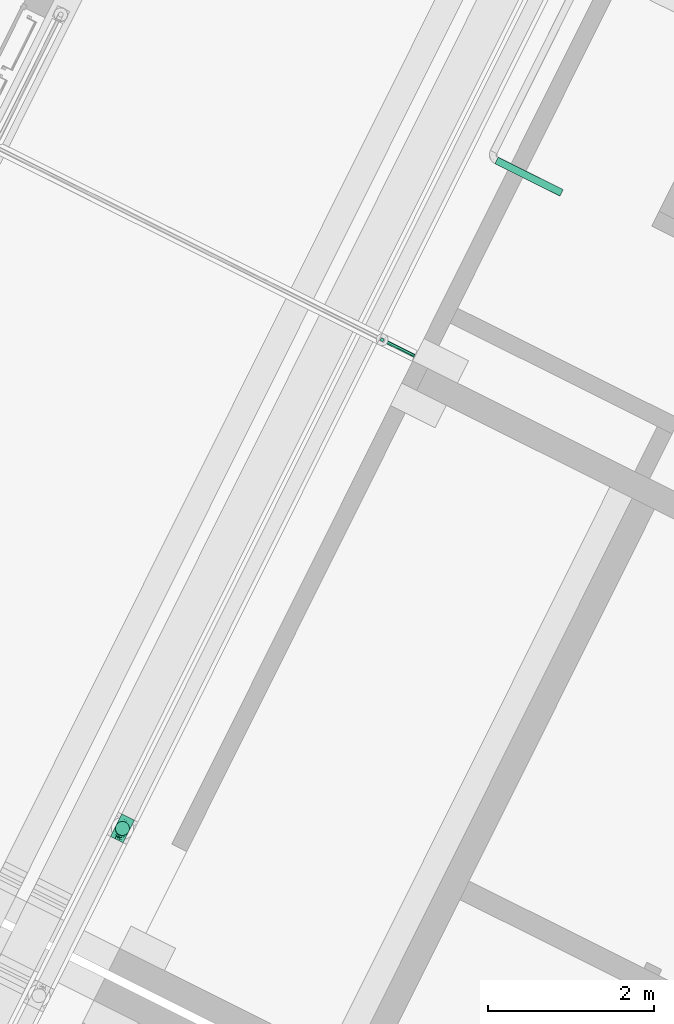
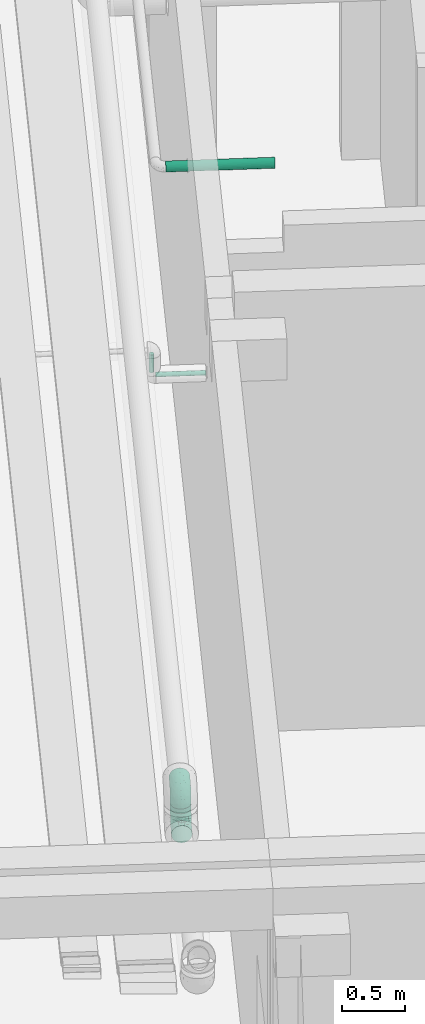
# One storey, part 77 of 91: 4 flow segments, 2 flow fittings.
"""IFC2X3 building model written with IfcOpenShell, lengths in metres."""

from ifc_helpers import new_model, entity, si_unit, converted_unit, derived_unit, direction, frame, frame_2d, origin, place, context, subcontext, project, spatial, circle, extrude, faceted_brep, source, transform, mapped, type_object, type_shapes, element, save


model = new_model("IFC2X3")

# Units and contexts
model_context = context("Model", 3, precision=1e-05, world=origin(), true_north=direction((0.894925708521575, 0.446215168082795)))
context_of_model = context(None, 3, precision=1e-05, world=origin(), true_north=direction((0.894925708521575, 0.446215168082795)))
body_context = subcontext(model_context, "Body", "Model", "MODEL_VIEW")
ifc_project = project(units=[si_unit("LENGTHUNIT", "METRE"), si_unit("AREAUNIT", "SQUARE_METRE"), si_unit("VOLUMEUNIT", "CUBIC_METRE"), converted_unit("PLANEANGLEUNIT", "DEGREE", entity("IfcRatioMeasure", 0.0174532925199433), si_unit("PLANEANGLEUNIT", "RADIAN"), dimensions=[0, 0, 0, 0, 0, 0, 0]), si_unit("MASSUNIT", "GRAM", prefix="KILO"), si_unit("TIMEUNIT", "SECOND"), si_unit("FREQUENCYUNIT", "HERTZ"), si_unit("THERMODYNAMICTEMPERATUREUNIT", "DEGREE_CELSIUS"), derived_unit("THERMALTRANSMITTANCEUNIT", [(si_unit("MASSUNIT", "GRAM", prefix="KILO"), 1), (si_unit("THERMODYNAMICTEMPERATUREUNIT", "KELVIN"), -1), (si_unit("TIMEUNIT", "SECOND"), -3)]), derived_unit("VOLUMETRICFLOWRATEUNIT", [(si_unit("LENGTHUNIT", "METRE"), 3), (si_unit("TIMEUNIT", "SECOND"), -1)]), si_unit("ELECTRICCURRENTUNIT", "AMPERE"), si_unit("ELECTRICVOLTAGEUNIT", "VOLT"), si_unit("POWERUNIT", "WATT"), si_unit("FORCEUNIT", "NEWTON", prefix="KILO"), si_unit("ILLUMINANCEUNIT", "LUX"), si_unit("LUMINOUSFLUXUNIT", "LUMEN"), si_unit("LUMINOUSINTENSITYUNIT", "CANDELA"), si_unit("PRESSUREUNIT", "PASCAL")], contexts=[model_context, context_of_model])

# Site, building, storey
site_placement = place(None, frame((218.228324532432, 584.720189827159, 0.0), z_axis=(0.0, 0.0, 1.0), x_axis=(0.446215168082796, 0.894925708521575, 0.0)))
site = spatial("IfcSite", under=ifc_project, at=site_placement, Name="Default", CompositionType="ELEMENT")
building_placement = place(site_placement, origin())
building = spatial("IfcBuilding", under=site, at=building_placement, CompositionType="ELEMENT")
storey_placement = place(building_placement, origin())
storey = spatial("IfcBuildingStorey", under=building, at=storey_placement, Name="0 - Piano Terra", CompositionType="ELEMENT", Elevation=0.0)

# Flow segment
pipe_segment_type_1 = type_object("IfcPipeSegmentType", Name="Tubazione:Riscaldamento-Tubazione", PredefinedType="NOTDEFINED")
flow_segment_1_placement = place(storey_placement, frame((-11.2648067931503, -4.47094926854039, 3.70199999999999)))
element("IfcFlowSegment", 1, at=flow_segment_1_placement, inside=storey, type_object=pipe_segment_type_1, Name="Tubazione:Riscaldamento-Tubazione", ObjectType="Tubazione:Riscaldamento-Tubazione", context=body_context, shape_type="SweptSolid", body=[
    extrude(circle(Radius=0.0841375, at=frame_2d((0.0, -5.41433564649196e-16), x_axis=(1.0, 0.0))), frame((0.0857327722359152, 0.0857327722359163, 0.0)), (0.0, 0.0, 1.0), 0.0459999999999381),
])

# Flow fittings
pipe_fitting_type = type_object("IfcPipeFittingType", Name="Standard", PredefinedType="NOTDEFINED")
shared_shape = source(origin(), body_context, "Body", "Brep", [
    faceted_brep([(-0.151999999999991, 0.0, -0.0841500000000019), (-0.151999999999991, -0.0217796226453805, -0.081282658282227), (-0.151999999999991, -0.0420750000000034, -0.0728760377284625), (-0.151999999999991, -0.0595030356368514, -0.05950303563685), (-0.151999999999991, -0.0728760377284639, -0.0420750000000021), (-0.151999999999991, -0.0812826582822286, -0.0217796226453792), (-0.151999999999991, -0.0841500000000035, 0.0), (-0.151999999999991, -0.0812826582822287, 0.021779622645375), (-0.151999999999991, -0.0728760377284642, 0.0420749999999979), (-0.151999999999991, -0.0595030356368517, 0.0595030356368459), (-0.151999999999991, -0.0420750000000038, 0.0728760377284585), (-0.151999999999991, -0.021779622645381, 0.0812826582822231), (-0.151999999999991, 0.0, 0.0841499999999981), (-0.151999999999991, 0.0217796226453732, 0.0812826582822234), (-0.151999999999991, 0.0420749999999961, 0.0728760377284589), (-0.151999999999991, 0.0595030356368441, 0.0595030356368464), (-0.151999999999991, 0.0728760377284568, 0.0420749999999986), (-0.151999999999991, 0.0812826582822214, 0.0217796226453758), (-0.151999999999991, 0.0841499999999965, 0.0), (-0.151999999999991, 0.0812826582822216, -0.021779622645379), (-0.151999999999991, 0.072876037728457, -0.0420750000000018), (-0.151999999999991, 0.0595030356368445, -0.0595030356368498), (-0.151999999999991, 0.0420749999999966, -0.0728760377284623), (-0.151999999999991, 0.0217796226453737, -0.0812826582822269), (-0.0217796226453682, 0.151999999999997, -0.0812826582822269), (-0.0420749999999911, 0.151999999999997, -0.0728760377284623), (-0.059503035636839, 0.151999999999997, -0.0595030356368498), (-0.0728760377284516, 0.151999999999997, -0.0420750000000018), (-0.0812826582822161, 0.151999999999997, -0.021779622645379), (-0.084149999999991, 0.151999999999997, 0.0), (-0.081282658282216, 0.151999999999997, 0.0217796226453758), (-0.0728760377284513, 0.151999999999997, 0.0420749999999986), (-0.0595030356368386, 0.151999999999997, 0.0595030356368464), (-0.0420749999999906, 0.151999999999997, 0.0728760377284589), (-0.0217796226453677, 0.151999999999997, 0.0812826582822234), (0.0, 0.151999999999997, 0.0841499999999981), (0.0217796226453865, 0.151999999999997, 0.0812826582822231), (0.0420750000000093, 0.151999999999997, 0.0728760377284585), (0.0595030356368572, 0.151999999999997, 0.0595030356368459), (0.0728760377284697, 0.151999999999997, 0.0420749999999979), (0.0812826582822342, 0.151999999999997, 0.021779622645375), (0.084150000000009, 0.151999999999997, 0.0), (0.081282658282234, 0.151999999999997, -0.0217796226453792), (0.0728760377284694, 0.151999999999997, -0.0420750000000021), (0.0595030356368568, 0.151999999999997, -0.05950303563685), (0.0420750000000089, 0.151999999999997, -0.0728760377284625), (0.021779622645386, 0.151999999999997, -0.081282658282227), (0.0, 0.151999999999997, -0.0841500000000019), (-0.112295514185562, -0.0662348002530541, 0.0469763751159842), (-0.0998944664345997, -0.0498948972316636, 0.0623523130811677), (-0.0994516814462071, -0.078229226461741, 0.0), (0.0326295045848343, 0.00476288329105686, 0.0), (0.0139051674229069, -0.0139051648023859, 0.0159460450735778), (-0.00476288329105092, -0.0326295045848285, 0.0), (-0.104326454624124, -0.0750333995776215, 0.0261468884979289), (-0.113416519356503, 0.0105478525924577, 0.0839778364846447), (-0.10345101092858, 0.0347244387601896, 0.080327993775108), (-0.131471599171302, 0.0309707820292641, 0.0789057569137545), (-0.0309203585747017, -0.0471487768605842, 0.0225668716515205), (-0.0495383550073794, -0.0607637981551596, 0.0), (-0.0683222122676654, -0.0568785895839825, 0.0418314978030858), (-0.0660333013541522, -0.0644471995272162, 0.0231811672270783), (-0.0835793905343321, 0.116982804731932, 0.0378856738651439), (-0.026569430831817, 0.0183089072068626, 0.0781043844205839), (-0.0165432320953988, 0.0456685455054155, 0.0816880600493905), (-0.0428661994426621, 0.0321386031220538, 0.0835414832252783), (0.0470025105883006, 0.0693062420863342, 0.055217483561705), (0.056878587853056, 0.0683222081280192, 0.0418314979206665), (0.0662347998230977, 0.112295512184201, 0.0469763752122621), (-0.0880808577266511, 0.123149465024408, 0.0194495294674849), (-0.115041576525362, -0.0119238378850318, 0.0826074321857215), (0.049894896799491, 0.0998944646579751, 0.062352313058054), (-0.111156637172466, -0.0327211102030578, 0.0754895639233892), (-0.0752436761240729, -0.0325343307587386, 0.0692137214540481), (-0.00888418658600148, -0.0109985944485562, 0.053550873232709), (-0.00897555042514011, 0.00897554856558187, 0.0674865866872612), (-0.0444608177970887, -0.0301022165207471, 0.0595210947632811), (-0.109349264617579, 0.0934713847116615, 0.0273546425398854), (-0.128739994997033, 0.0797549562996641, 0.0359106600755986), (-0.12603492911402, 0.0893147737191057, 0.0), (0.0471487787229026, 0.0309203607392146, 0.022566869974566), (0.0371028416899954, 0.0305253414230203, 0.0422794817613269), (-0.0347244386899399, 0.103451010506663, 0.080327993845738), (-0.0262367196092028, 0.07490520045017, 0.0840302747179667), (-0.0105478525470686, 0.113416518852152, 0.0839778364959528), (-0.119941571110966, 0.0519254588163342, 0.0698578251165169), (-0.0833454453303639, 0.0610025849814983, 0.0750769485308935), (-0.0993800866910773, 0.0670387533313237, 0.0661104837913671), (-0.0522736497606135, 0.118034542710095, 0.0700368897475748), (-0.118528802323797, 0.069574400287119, 0.055744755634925), (0.0607637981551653, 0.0495383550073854, 0.0), (0.0327211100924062, 0.111156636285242, 0.075489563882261), (-0.0767637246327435, 0.0258413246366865, 0.0839946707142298), (0.0119238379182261, 0.115041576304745, 0.0826074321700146), (-0.102216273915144, 0.0876981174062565, 0.0456699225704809), (0.0782292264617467, 0.0994516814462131, 0.0), (0.0750333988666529, 0.104326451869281, 0.0261468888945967), (0.0651289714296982, 0.0654047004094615, 0.0199129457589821), (-0.0566549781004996, 0.0566549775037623, 0.0823814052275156), (-0.0309707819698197, 0.13147159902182, 0.0789057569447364), (-0.0673555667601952, 0.101601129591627, 0.0649639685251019), (-0.0687747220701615, 0.121637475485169, 0.0553217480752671), (-0.0893147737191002, 0.126034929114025, 0.0), (-0.104022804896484, 0.104022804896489, 0.0), (-0.0580913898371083, 0.0854184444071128, 0.0756364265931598), (0.00431503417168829, 0.0425180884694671, 0.0746493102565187), (0.00308445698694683, 0.0734448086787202, 0.0812650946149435), (-0.0693062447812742, -0.0470025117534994, 0.0552174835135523), (-0.085628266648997, 0.086263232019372, 0.0604079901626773), (-0.0414671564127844, 0.0784252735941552, 0.0819258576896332), (-0.0734448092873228, -0.00308445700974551, 0.0812650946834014), (-0.0305253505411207, -0.037102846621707, 0.0422794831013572), (-0.0426179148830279, -0.0109766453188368, 0.0715577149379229), (0.0222104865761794, 0.075179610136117, 0.0748796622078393), (0.0365396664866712, 0.0751083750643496, 0.0664604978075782), (0.0166895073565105, 0.014403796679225, 0.0525934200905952), (-0.0796442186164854, 0.0464469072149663, 0.0806466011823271), (0.00908607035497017, -0.00908606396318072, 0.036524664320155), (0.0301022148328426, 0.0444608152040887, 0.0595210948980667), (-0.119427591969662, 0.0520158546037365, -0.0699061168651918), (-0.110232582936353, 0.0332348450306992, -0.0799986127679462), (0.067303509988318, 0.127444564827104, -0.0486323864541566), (-0.119776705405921, 0.00991992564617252, -0.0839129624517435), (-0.109349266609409, 0.0934713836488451, -0.0273546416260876), (-0.118520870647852, 0.080425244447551, -0.0418904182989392), (-0.0824889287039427, 0.0176322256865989, -0.0841469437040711), (-0.042237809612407, 0.0404874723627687, -0.0840312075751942), (-0.0715643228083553, 0.0462238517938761, -0.0819502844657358), (-0.0269520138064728, -0.034464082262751, -0.0426985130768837), (-0.0323682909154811, -0.0463076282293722, -0.0273014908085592), (-0.0576003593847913, -0.052357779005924, -0.0416714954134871), (-0.00991992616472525, 0.119776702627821, -0.083912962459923), (-0.0332348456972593, 0.110232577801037, -0.0799986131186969), (-0.0929808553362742, 0.0517253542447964, -0.0762272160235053), (0.00399581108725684, 0.0640144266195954, -0.079667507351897), (0.00840813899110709, 0.0328778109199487, -0.0692544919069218), (-0.0236511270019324, 0.0236511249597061, -0.0788049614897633), (0.0635649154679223, 0.0943451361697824, -0.0449449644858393), (0.0647121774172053, 0.0698052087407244, -0.0267768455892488), (0.0523577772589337, 0.0576003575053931, -0.0416714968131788), (-0.132110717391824, 0.0669080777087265, -0.0539090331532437), (-0.110166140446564, -0.0759227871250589, -0.0269132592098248), (-0.127444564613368, -0.067303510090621, -0.0486323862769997), (-0.0698052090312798, -0.0647121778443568, -0.0267768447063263), (0.00867466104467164, -0.00867466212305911, -0.037708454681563), (0.0160110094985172, 0.0156079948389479, -0.0541609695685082), (0.0347671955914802, 0.027256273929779, -0.0425577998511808), (-0.109085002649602, -0.0511074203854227, -0.0631726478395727), (0.0138015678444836, -0.0138015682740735, -0.0166872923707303), (-0.0734094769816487, 0.10741660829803, -0.0572817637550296), (-0.0938460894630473, 0.0941329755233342, -0.0467626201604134), (-0.0824977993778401, 0.119740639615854, -0.0374121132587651), (0.0203075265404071, 0.0628849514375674, -0.0729261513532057), (-0.127855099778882, -0.0335932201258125, -0.0764538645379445), (-0.111254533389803, -0.0115586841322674, -0.0825049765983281), (-0.054595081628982, -0.037464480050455, -0.0579290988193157), (-0.0943451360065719, -0.0635649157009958, -0.0449449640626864), (0.0463076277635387, 0.0323682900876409, -0.0273014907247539), (-0.0879480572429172, 0.123581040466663, -0.0192162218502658), (-0.0520158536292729, 0.119427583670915, -0.0699061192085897), (-0.0668704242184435, 0.132433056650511, -0.053865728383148), (0.0759227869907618, 0.11016614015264, -0.0269132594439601), (-0.094035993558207, 0.0671599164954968, -0.0682327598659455), (-0.0852711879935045, 0.0856897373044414, -0.0610386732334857), (-0.0723785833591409, 0.0723785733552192, -0.0743572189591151), (0.0511074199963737, 0.109085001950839, -0.0631726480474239), (0.0335932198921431, 0.127855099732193, -0.0764538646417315), (0.0115586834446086, 0.111254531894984, -0.0825049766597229), (0.0304569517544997, 0.0950501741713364, -0.0744944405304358), (-0.0587965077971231, -0.0231830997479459, -0.0701791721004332), (-0.0640144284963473, -0.0039958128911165, -0.0796675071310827), (-0.0253392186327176, -0.00591217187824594, -0.0673625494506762), (-0.0950501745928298, -0.0304569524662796, -0.0744944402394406), (0.0374644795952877, 0.0545950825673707, -0.0579290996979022), (-0.0176322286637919, 0.082488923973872, -0.0841469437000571), (-0.0469951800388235, 0.0749575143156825, -0.081286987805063), (-0.0651507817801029, 0.0957840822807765, -0.0687360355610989), (-0.0548517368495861, 0.0878796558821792, -0.0762491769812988), (-0.0117403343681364, -0.0138595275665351, -0.0531816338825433), (-0.106904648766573, 0.0736247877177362, -0.0573538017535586)], [[[0, 1, 2, 3, 4, 5, 6, 7, 8, 9, 10, 11, 12, 13, 14, 15, 16, 17, 18, 19, 20, 21, 22, 23]], [[24, 25, 26, 27, 28, 29, 30, 31, 32, 33, 34, 35, 36, 37, 38, 39, 40, 41, 42, 43, 44, 45, 46, 47]], [[9, 48, 49]], [[7, 6, 50]], [[51, 52, 53]], [[54, 8, 7]], [[50, 54, 7]], [[55, 56, 57]], [[8, 48, 9]], [[58, 59, 53]], [[60, 54, 61]], [[58, 60, 61]], [[9, 49, 10]], [[62, 31, 30]], [[63, 64, 65]], [[66, 67, 68]], [[30, 69, 62]], [[11, 70, 12]], [[71, 38, 37]], [[14, 13, 57]], [[10, 49, 72]], [[49, 73, 72]], [[74, 75, 76]], [[77, 17, 78]], [[17, 79, 18]], [[79, 17, 77]], [[80, 67, 81]], [[82, 83, 84]], [[85, 86, 87]], [[33, 32, 88]], [[85, 89, 15]], [[80, 51, 90]], [[71, 37, 91]], [[56, 55, 92]], [[93, 36, 35]], [[78, 94, 77]], [[95, 40, 96]], [[95, 96, 97]], [[83, 98, 65]], [[35, 34, 84]], [[34, 99, 84]], [[96, 40, 39]], [[71, 66, 68]], [[39, 38, 68]], [[94, 62, 77]], [[67, 80, 97]], [[100, 88, 101]], [[40, 95, 41]], [[15, 14, 85]], [[68, 96, 39]], [[56, 86, 85]], [[29, 102, 69]], [[15, 89, 16]], [[77, 69, 103]], [[78, 17, 16]], [[77, 103, 79]], [[61, 50, 59]], [[101, 88, 32]], [[69, 77, 62]], [[82, 88, 104]], [[91, 37, 36]], [[10, 72, 11]], [[64, 105, 106]], [[88, 82, 99]], [[99, 34, 33]], [[49, 48, 107]], [[48, 54, 60]], [[97, 80, 90]], [[32, 31, 101]], [[13, 12, 55]], [[108, 86, 104]], [[83, 109, 98]], [[93, 84, 106]], [[70, 55, 12]], [[110, 65, 92]], [[60, 58, 111]], [[76, 112, 73]], [[91, 113, 114]], [[75, 74, 115]], [[49, 107, 73]], [[70, 72, 110]], [[93, 91, 36]], [[106, 105, 113]], [[57, 85, 14]], [[116, 98, 86]], [[31, 62, 101]], [[108, 101, 62]], [[54, 48, 8]], [[48, 60, 107]], [[71, 68, 38]], [[96, 68, 67]], [[109, 104, 98]], [[89, 87, 108]], [[84, 93, 35]], [[93, 106, 113]], [[72, 70, 11]], [[55, 70, 110]], [[98, 116, 92]], [[106, 84, 83]], [[110, 112, 63]], [[83, 65, 64]], [[52, 58, 53]], [[111, 76, 107]], [[67, 66, 81]], [[52, 80, 117]], [[110, 92, 55]], [[98, 92, 65]], [[104, 88, 100]], [[98, 104, 86]], [[112, 76, 75]], [[110, 72, 73]], [[63, 112, 75]], [[110, 73, 112]], [[63, 75, 105]], [[110, 63, 65]], [[75, 118, 105]], [[113, 91, 93]], [[105, 118, 113]], [[118, 66, 114]], [[16, 89, 78]], [[94, 89, 108]], [[89, 94, 78]], [[62, 94, 108]], [[105, 64, 63]], [[83, 64, 106]], [[58, 117, 111]], [[74, 111, 117]], [[115, 81, 118]], [[117, 80, 81]], [[80, 52, 51]], [[58, 52, 117]], [[88, 99, 33]], [[84, 99, 82]], [[55, 57, 13]], [[85, 57, 56]], [[29, 69, 30]], [[69, 102, 103]], [[111, 107, 60]], [[73, 107, 76]], [[111, 74, 76]], [[117, 81, 115]], [[75, 115, 118]], [[117, 115, 74]], [[114, 66, 71]], [[81, 66, 118]], [[91, 114, 71]], [[118, 114, 113]], [[101, 108, 100]], [[104, 100, 108]], [[86, 56, 116]], [[92, 116, 56]], [[85, 87, 89]], [[86, 108, 87]], [[83, 82, 109]], [[104, 109, 82]], [[50, 61, 54]], [[59, 58, 61]], [[95, 97, 90]], [[67, 97, 96]], [[22, 119, 120]], [[121, 44, 43]], [[0, 23, 122]], [[19, 123, 124]], [[122, 120, 125]], [[126, 125, 127]], [[18, 79, 19]], [[128, 129, 130]], [[19, 79, 123]], [[24, 131, 132]], [[119, 133, 120]], [[134, 135, 136]], [[137, 138, 139]], [[20, 140, 21]], [[141, 4, 142]], [[143, 50, 141]], [[50, 6, 5]], [[144, 145, 146]], [[147, 3, 2]], [[129, 143, 130]], [[129, 144, 148]], [[149, 150, 151]], [[135, 134, 152]], [[141, 5, 4]], [[2, 153, 147]], [[154, 1, 0]], [[155, 156, 147]], [[2, 1, 153]], [[157, 90, 51]], [[123, 150, 124]], [[103, 123, 79]], [[156, 143, 141]], [[151, 158, 28]], [[25, 132, 159]], [[28, 158, 29]], [[27, 160, 151]], [[43, 42, 161]], [[27, 26, 160]], [[162, 163, 164]], [[45, 44, 165]], [[166, 167, 46]], [[165, 168, 166]], [[169, 170, 171]], [[131, 24, 47]], [[51, 148, 157]], [[26, 25, 159]], [[125, 120, 127]], [[46, 45, 166]], [[157, 139, 138]], [[53, 59, 129]], [[24, 132, 25]], [[3, 142, 4]], [[148, 51, 53]], [[154, 172, 153]], [[168, 165, 173]], [[28, 27, 151]], [[41, 95, 42]], [[172, 154, 170]], [[120, 133, 127]], [[161, 137, 121]], [[46, 167, 47]], [[167, 134, 174]], [[135, 171, 136]], [[120, 23, 22]], [[164, 175, 127]], [[102, 158, 103]], [[159, 176, 149]], [[22, 21, 119]], [[138, 137, 161]], [[149, 163, 150]], [[158, 102, 29]], [[121, 165, 44]], [[173, 165, 137]], [[134, 167, 168]], [[131, 167, 174]], [[152, 173, 135]], [[134, 136, 126]], [[42, 95, 161]], [[138, 95, 90]], [[155, 147, 172]], [[142, 147, 156]], [[122, 154, 0]], [[125, 126, 170]], [[125, 170, 154]], [[170, 136, 171]], [[130, 143, 156]], [[50, 5, 141]], [[140, 119, 21]], [[133, 162, 164]], [[175, 164, 177]], [[160, 159, 149]], [[173, 145, 135]], [[145, 178, 171]], [[171, 135, 145]], [[171, 155, 169]], [[120, 122, 23]], [[154, 122, 125]], [[167, 131, 47]], [[132, 131, 174]], [[95, 138, 161]], [[90, 157, 138]], [[129, 59, 143]], [[50, 143, 59]], [[177, 164, 176]], [[126, 136, 170]], [[175, 126, 127]], [[134, 126, 174]], [[132, 174, 175]], [[126, 175, 174]], [[173, 139, 146]], [[145, 144, 178]], [[128, 144, 129]], [[155, 171, 178]], [[146, 139, 157]], [[173, 137, 139]], [[144, 146, 157]], [[173, 146, 145]], [[156, 155, 130]], [[128, 155, 178]], [[155, 128, 130]], [[144, 128, 178]], [[124, 150, 179]], [[123, 151, 150]], [[140, 124, 179]], [[19, 124, 20]], [[151, 123, 158]], [[103, 158, 123]], [[162, 119, 179]], [[127, 133, 164]], [[119, 162, 133]], [[163, 162, 179]], [[150, 163, 179]], [[163, 149, 176]], [[129, 148, 53]], [[157, 148, 144]], [[124, 140, 20]], [[119, 140, 179]], [[159, 160, 26]], [[151, 160, 149]], [[165, 166, 45]], [[167, 166, 168]], [[161, 121, 43]], [[165, 121, 137]], [[154, 153, 1]], [[147, 153, 172]], [[147, 142, 3]], [[141, 142, 156]], [[159, 132, 177]], [[163, 176, 164]], [[159, 177, 176]], [[132, 175, 177]], [[134, 168, 152]], [[173, 152, 168]], [[155, 172, 169]], [[170, 169, 172]]]),
])
type_shapes(pipe_fitting_type, [shared_shape])
for number, where, z_axis, x_axis, name in (
    (2, (-11.1790740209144, -4.38521649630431, 3.55000000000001), (0.0, -1.0, 0.0), (1.0, 0.0, 0.0), "M_Gomito - Saldato - Generico:Standard"),
    (3, (-11.1790740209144, -4.38521649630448, 3.89999999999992), (0.0, 1.0, 0.0), (0.0, 0.0, 1.0), "M_Gomito - Saldato - Generico:Standard"),
):
    element("IfcFlowFitting", number, at=place(storey_placement, frame(where, z_axis=z_axis, x_axis=x_axis)), inside=storey, type_object=pipe_fitting_type, Name=name, ObjectType="Standard", context=body_context, shape_type="MappedRepresentation", body=[
        mapped(shared_shape, transform((0.0, 0.0, 0.0), scale=1.0)),
    ])

# Flow segments
pipe_segment_type_2 = type_object("IfcPipeSegmentType", Name="Tubazione:Antincendio-Tubazione", PredefinedType="NOTDEFINED")
flow_segment_2_placement = place(storey_placement, frame((-4.54454925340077, -4.99271314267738, 3.23982218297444)))
element("IfcFlowSegment", 4, at=flow_segment_2_placement, inside=storey, type_object=pipe_segment_type_2, Name="Tubazione:Antincendio-Tubazione", ObjectType="Tubazione:Antincendio-Tubazione", context=body_context, shape_type="SweptSolid", body=[
    extrude(circle(Radius=0.021082, at=frame_2d((1.53225698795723e-13, 2.70716782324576e-15), x_axis=(1.0, 0.0))), frame((0.0226772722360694, 0.0, 0.0226772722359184), z_axis=(0.0, 1.0, 0.0), x_axis=(-1.0, 0.0, 0.0)), (0.0, 0.0, 1.0), 0.401836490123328),
])
flow_segment_3_placement = place(storey_placement, frame((-4.54454925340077, -4.58155392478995, 3.29449945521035)))
element("IfcFlowSegment", 5, at=flow_segment_3_placement, inside=storey, type_object=pipe_segment_type_2, Name="Tubazione:Antincendio-Tubazione", ObjectType="Tubazione:Antincendio-Tubazione", context=body_context, shape_type="SweptSolid", body=[
    extrude(circle(Radius=0.021082, at=frame_2d((0.0, 5.41433564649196e-16), x_axis=(1.0, 0.0))), frame((0.0226772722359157, 0.0226772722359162, 0.0), z_axis=(0.0, 0.0, 1.0), x_axis=(-1.0, 0.0, 0.0)), (0.0, 0.0, 1.0), 0.173510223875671),
])
flow_segment_4_placement = place(storey_placement, frame((-2.02288085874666, -5.70107899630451, 3.45395472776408)))
element("IfcFlowSegment", 6, at=flow_segment_4_placement, inside=storey, type_object=pipe_segment_type_2, Name="Tubazione:Antincendio-Tubazione", ObjectType="Tubazione:Antincendio-Tubazione", context=body_context, shape_type="SweptSolid", body=[
    extrude(circle(Radius=0.04445, at=frame_2d((7.30935312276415e-15, -5.41433564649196e-16), x_axis=(1.0, 0.0))), frame((0.0460452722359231, 0.0, 0.0460452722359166), z_axis=(0.0, 1.0, 0.0), x_axis=(-1.0, 0.0, 0.0)), (0.0, 0.0, 1.0), 0.874000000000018),
])

save(model, "model.ifc")
